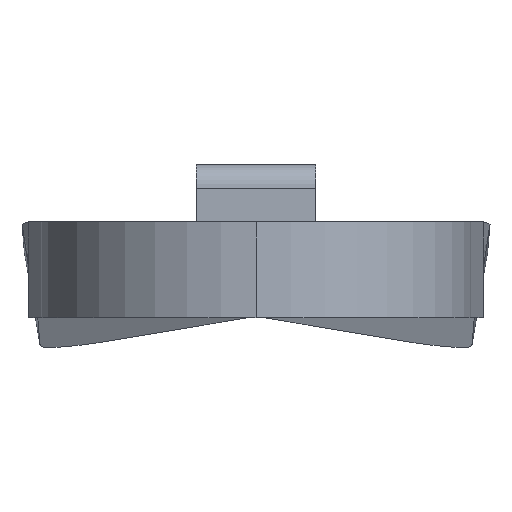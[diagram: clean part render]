
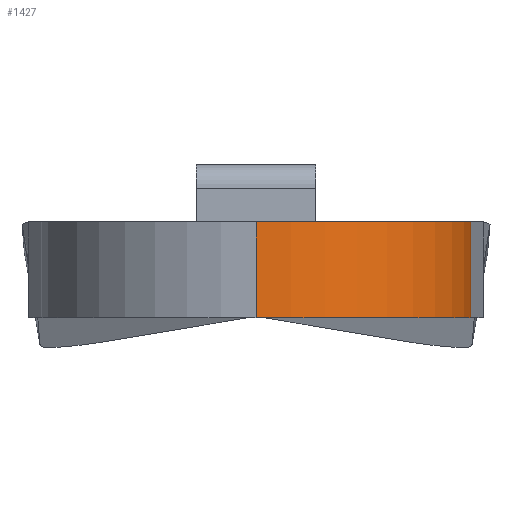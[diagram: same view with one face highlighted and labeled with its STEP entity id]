
A CAD part, left-side view. The second image highlights one B-rep face of the part: STEP entity #1427.
In plain terms, the highlighted cylindrical face has radius 9 mm (diameter 18 mm), a partial arc.
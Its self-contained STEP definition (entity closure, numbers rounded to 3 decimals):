
#34 = VERTEX_POINT ( 'NONE', #390 ) ;
#35 = VERTEX_POINT ( 'NONE', #391 ) ;
#36 = VERTEX_POINT ( 'NONE', #392 ) ;
#37 = VERTEX_POINT ( 'NONE', #393 ) ;
#45 = EDGE_LOOP ( 'NONE', ( #143, #114, #142, #139 ) ) ;
#114 = ORIENTED_EDGE ( 'NONE', *, *, #1248, .T. ) ;
#139 = ORIENTED_EDGE ( 'NONE', *, *, #1249, .F. ) ;
#142 = ORIENTED_EDGE ( 'NONE', *, *, #1244, .T. ) ;
#143 = ORIENTED_EDGE ( 'NONE', *, *, #1251, .F. ) ;
#373 = LINE ( 'NONE', #456, #458 ) ;
#390 = CARTESIAN_POINT ( 'NONE',  ( -9., 0., 4. ) ) ;
#391 = CARTESIAN_POINT ( 'NONE',  ( 2.018, -8.771, 4. ) ) ;
#392 = CARTESIAN_POINT ( 'NONE',  ( -9., 0., 0. ) ) ;
#393 = CARTESIAN_POINT ( 'NONE',  ( 2.018, -8.771, 0. ) ) ;
#453 = CARTESIAN_POINT ( 'NONE',  ( 0., 0., 0. ) ) ;
#454 = DIRECTION ( 'NONE',  ( 0., 0., 1. ) ) ;
#455 = DIRECTION ( 'NONE',  ( 1., 0., 0. ) ) ;
#456 = CARTESIAN_POINT ( 'NONE',  ( -9., 0., 4. ) ) ;
#458 = VECTOR ( 'NONE', #508, 1000. ) ;
#459 = CIRCLE ( 'NONE', #1362, 9. ) ;
#461 = LINE ( 'NONE', #509, #462 ) ;
#462 = VECTOR ( 'NONE', #510, 1000. ) ;
#508 = DIRECTION ( 'NONE',  ( 0., 0., -1. ) ) ;
#509 = CARTESIAN_POINT ( 'NONE',  ( 2.018, -8.771, 4. ) ) ;
#510 = DIRECTION ( 'NONE',  ( 0., 0., -1. ) ) ;
#513 = CARTESIAN_POINT ( 'NONE',  ( 0., 0., 4. ) ) ;
#514 = DIRECTION ( 'NONE',  ( 0., 0., 1. ) ) ;
#515 = DIRECTION ( 'NONE',  ( 1., 0., 0. ) ) ;
#523 = CIRCLE ( 'NONE', #1368, 9. ) ;
#872 = CYLINDRICAL_SURFACE ( 'NONE', #1378, 9. ) ;
#879 = FACE_OUTER_BOUND ( 'NONE', #45, .T. ) ;
#901 = CARTESIAN_POINT ( 'NONE',  ( 0., 0., 4. ) ) ;
#907 = DIRECTION ( 'NONE',  ( -1., 0., 0. ) ) ;
#910 = DIRECTION ( 'NONE',  ( 0., 0., -1. ) ) ;
#1244 = EDGE_CURVE ( 'NONE', #36, #37, #459, .T. ) ;
#1248 = EDGE_CURVE ( 'NONE', #34, #36, #373, .T. ) ;
#1249 = EDGE_CURVE ( 'NONE', #35, #37, #461, .T. ) ;
#1251 = EDGE_CURVE ( 'NONE', #34, #35, #523, .T. ) ;
#1362 = AXIS2_PLACEMENT_3D ( 'NONE', #453, #454, #455 ) ;
#1368 = AXIS2_PLACEMENT_3D ( 'NONE', #513, #514, #515 ) ;
#1378 = AXIS2_PLACEMENT_3D ( 'NONE', #901, #910, #907 ) ;
#1427 = ADVANCED_FACE ( 'NONE', ( #879 ), #872, .T. ) ;
